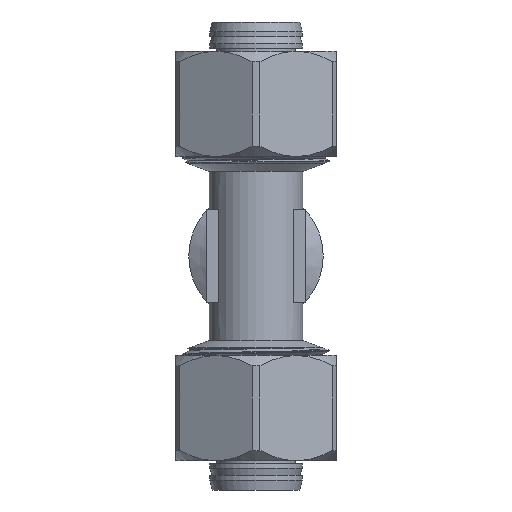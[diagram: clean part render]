
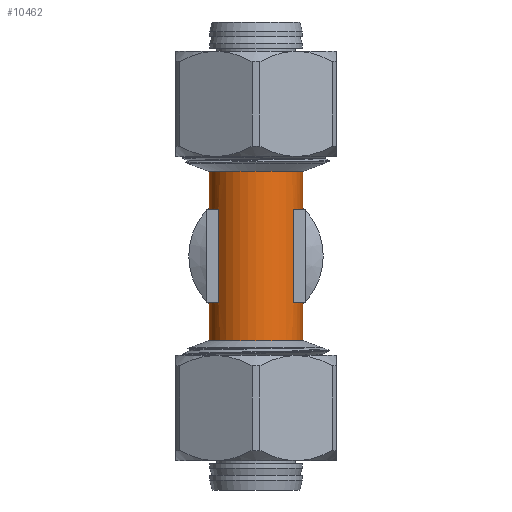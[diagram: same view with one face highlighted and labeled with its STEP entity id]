
A CAD part, front view. The second image highlights one B-rep face of the part: STEP entity #10462.
In plain terms, the highlighted cylindrical face has radius 8 mm (diameter 16 mm), a full revolution.
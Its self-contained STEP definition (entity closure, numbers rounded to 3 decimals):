
#110=ELLIPSE('',#11153,11.314,8.);
#111=ELLIPSE('',#11154,11.314,8.);
#112=ELLIPSE('',#11155,11.314,8.);
#113=ELLIPSE('',#11158,11.314,8.);
#1313=CYLINDRICAL_SURFACE('',#11231,8.);
#1498=FACE_OUTER_BOUND('',#2116,.T.);
#2116=EDGE_LOOP('',(#7521,#7522,#7523,#7524,#7525,#7526,#7527,#7528,#7529,
#7530,#7531,#7532,#7533,#7534,#7535,#7536,#7537,#7538,#7539,#7540,#7541,
#7542,#7543));
#2791=LINE('',#14118,#3449);
#2794=LINE('',#14126,#3452);
#2801=LINE('',#14145,#3459);
#2804=LINE('',#14151,#3462);
#2811=LINE('',#14168,#3469);
#2819=LINE('',#14187,#3477);
#2834=LINE('',#14334,#3492);
#2835=LINE('',#14335,#3493);
#3449=VECTOR('',#11967,10.);
#3452=VECTOR('',#11974,10.);
#3459=VECTOR('',#11993,10.);
#3462=VECTOR('',#11998,10.);
#3469=VECTOR('',#12015,10.);
#3477=VECTOR('',#12035,10.);
#3492=VECTOR('',#12212,8.);
#3493=VECTOR('',#12213,8.);
#4011=CIRCLE('',#11129,8.);
#4014=CIRCLE('',#11135,8.);
#4015=CIRCLE('',#11137,8.);
#4016=CIRCLE('',#11141,8.);
#4017=CIRCLE('',#11143,8.);
#4019=CIRCLE('',#11149,8.);
#4049=CIRCLE('',#11205,8.);
#4065=CIRCLE('',#11229,8.);
#4066=CIRCLE('',#11230,8.);
#4383=VERTEX_POINT('',#14108);
#4384=VERTEX_POINT('',#14109);
#4386=VERTEX_POINT('',#14116);
#4387=VERTEX_POINT('',#14117);
#4389=VERTEX_POINT('',#14124);
#4390=VERTEX_POINT('',#14125);
#4392=VERTEX_POINT('',#14132);
#4394=VERTEX_POINT('',#14138);
#4396=VERTEX_POINT('',#14144);
#4398=VERTEX_POINT('',#14150);
#4400=VERTEX_POINT('',#14156);
#4402=VERTEX_POINT('',#14162);
#4407=VERTEX_POINT('',#14181);
#4408=VERTEX_POINT('',#14182);
#4409=VERTEX_POINT('',#14190);
#4410=VERTEX_POINT('',#14193);
#4443=VERTEX_POINT('',#14285);
#4458=VERTEX_POINT('',#14329);
#4459=VERTEX_POINT('',#14330);
#5533=EDGE_CURVE('',#4383,#4384,#4011,.T.);
#5537=EDGE_CURVE('',#4386,#4387,#2791,.T.);
#5541=EDGE_CURVE('',#4389,#4390,#2794,.T.);
#5545=EDGE_CURVE('',#4392,#4386,#4014,.T.);
#5548=EDGE_CURVE('',#4390,#4394,#4015,.T.);
#5551=EDGE_CURVE('',#4396,#4392,#2801,.T.);
#5554=EDGE_CURVE('',#4394,#4398,#2804,.T.);
#5557=EDGE_CURVE('',#4400,#4396,#4016,.T.);
#5560=EDGE_CURVE('',#4398,#4402,#4017,.T.);
#5563=EDGE_CURVE('',#4384,#4400,#2811,.T.);
#5570=EDGE_CURVE('',#4407,#4408,#4019,.T.);
#5573=EDGE_CURVE('',#4402,#4407,#2819,.T.);
#5574=EDGE_CURVE('',#4409,#4389,#110,.T.);
#5575=EDGE_CURVE('',#4387,#4409,#111,.T.);
#5576=EDGE_CURVE('',#4410,#4383,#112,.T.);
#5580=EDGE_CURVE('',#4408,#4410,#113,.T.);
#5620=EDGE_CURVE('',#4443,#4443,#4049,.T.);
#5641=EDGE_CURVE('',#4458,#4459,#4065,.T.);
#5642=EDGE_CURVE('',#4459,#4458,#4066,.T.);
#5643=EDGE_CURVE('',#4443,#4410,#2834,.T.);
#5644=EDGE_CURVE('',#4409,#4459,#2835,.T.);
#7521=ORIENTED_EDGE('',*,*,#5620,.F.);
#7522=ORIENTED_EDGE('',*,*,#5643,.T.);
#7523=ORIENTED_EDGE('',*,*,#5576,.T.);
#7524=ORIENTED_EDGE('',*,*,#5533,.T.);
#7525=ORIENTED_EDGE('',*,*,#5563,.T.);
#7526=ORIENTED_EDGE('',*,*,#5557,.T.);
#7527=ORIENTED_EDGE('',*,*,#5551,.T.);
#7528=ORIENTED_EDGE('',*,*,#5545,.T.);
#7529=ORIENTED_EDGE('',*,*,#5537,.T.);
#7530=ORIENTED_EDGE('',*,*,#5575,.T.);
#7531=ORIENTED_EDGE('',*,*,#5644,.T.);
#7532=ORIENTED_EDGE('',*,*,#5642,.T.);
#7533=ORIENTED_EDGE('',*,*,#5641,.T.);
#7534=ORIENTED_EDGE('',*,*,#5644,.F.);
#7535=ORIENTED_EDGE('',*,*,#5574,.T.);
#7536=ORIENTED_EDGE('',*,*,#5541,.T.);
#7537=ORIENTED_EDGE('',*,*,#5548,.T.);
#7538=ORIENTED_EDGE('',*,*,#5554,.T.);
#7539=ORIENTED_EDGE('',*,*,#5560,.T.);
#7540=ORIENTED_EDGE('',*,*,#5573,.T.);
#7541=ORIENTED_EDGE('',*,*,#5570,.T.);
#7542=ORIENTED_EDGE('',*,*,#5580,.T.);
#7543=ORIENTED_EDGE('',*,*,#5643,.F.);
#10462=ADVANCED_FACE('',(#1498),#1313,.T.);
#11129=AXIS2_PLACEMENT_3D('',#14110,#11960,#11961);
#11135=AXIS2_PLACEMENT_3D('',#14133,#11981,#11982);
#11137=AXIS2_PLACEMENT_3D('',#14139,#11987,#11988);
#11141=AXIS2_PLACEMENT_3D('',#14157,#12003,#12004);
#11143=AXIS2_PLACEMENT_3D('',#14163,#12009,#12010);
#11149=AXIS2_PLACEMENT_3D('',#14183,#12029,#12030);
#11153=AXIS2_PLACEMENT_3D('',#14191,#12040,#12041);
#11154=AXIS2_PLACEMENT_3D('',#14192,#12042,#12043);
#11155=AXIS2_PLACEMENT_3D('',#14194,#12044,#12045);
#11158=AXIS2_PLACEMENT_3D('',#14200,#12051,#12052);
#11205=AXIS2_PLACEMENT_3D('',#14286,#12153,#12154);
#11229=AXIS2_PLACEMENT_3D('',#14331,#12206,#12207);
#11230=AXIS2_PLACEMENT_3D('',#14332,#12208,#12209);
#11231=AXIS2_PLACEMENT_3D('',#14333,#12210,#12211);
#11960=DIRECTION('center_axis',(0.,0.,-1.));
#11961=DIRECTION('ref_axis',(0.,-1.,0.));
#11967=DIRECTION('',(0.,0.,-1.));
#11974=DIRECTION('',(0.,0.,1.));
#11981=DIRECTION('center_axis',(0.,0.,1.));
#11982=DIRECTION('ref_axis',(0.,-1.,0.));
#11987=DIRECTION('center_axis',(0.,0.,1.));
#11988=DIRECTION('ref_axis',(0.,-1.,0.));
#11993=DIRECTION('',(0.,0.,1.));
#11998=DIRECTION('',(0.,0.,-1.));
#12003=DIRECTION('center_axis',(0.,0.,-1.));
#12004=DIRECTION('ref_axis',(0.,-1.,0.));
#12009=DIRECTION('center_axis',(0.,0.,-1.));
#12010=DIRECTION('ref_axis',(0.,-1.,0.));
#12015=DIRECTION('',(0.,0.,-1.));
#12029=DIRECTION('center_axis',(0.,0.,-1.));
#12030=DIRECTION('ref_axis',(0.,-1.,0.));
#12035=DIRECTION('',(0.,0.,1.));
#12040=DIRECTION('center_axis',(0.,-0.707,0.707));
#12041=DIRECTION('ref_axis',(0.,0.707,0.707));
#12042=DIRECTION('center_axis',(0.,-0.707,0.707));
#12043=DIRECTION('ref_axis',(0.,0.707,0.707));
#12044=DIRECTION('center_axis',(0.,-0.707,-0.707));
#12045=DIRECTION('ref_axis',(0.,-0.707,0.707));
#12051=DIRECTION('center_axis',(0.,-0.707,-0.707));
#12052=DIRECTION('ref_axis',(0.,-0.707,0.707));
#12153=DIRECTION('center_axis',(0.,0.,-1.));
#12154=DIRECTION('ref_axis',(1.,0.,0.));
#12206=DIRECTION('center_axis',(0.,0.,-1.));
#12207=DIRECTION('ref_axis',(1.,0.,0.));
#12208=DIRECTION('center_axis',(0.,0.,-1.));
#12209=DIRECTION('ref_axis',(1.,0.,0.));
#12210=DIRECTION('center_axis',(0.,0.,-1.));
#12211=DIRECTION('ref_axis',(0.,-1.,0.));
#12212=DIRECTION('',(0.,0.,1.));
#12213=DIRECTION('',(0.,0.,1.));
#14108=CARTESIAN_POINT('',(6.421,4.772,-4.772));
#14109=CARTESIAN_POINT('',(6.447,4.736,-4.772));
#14110=CARTESIAN_POINT('Origin',(0.,0.,-4.772));
#14116=CARTESIAN_POINT('',(6.447,4.736,7.978));
#14117=CARTESIAN_POINT('',(6.447,4.736,4.736));
#14118=CARTESIAN_POINT('',(6.447,4.736,7.25));
#14124=CARTESIAN_POINT('',(-6.447,4.736,4.736));
#14125=CARTESIAN_POINT('',(-6.447,4.736,7.978));
#14126=CARTESIAN_POINT('',(-6.447,4.736,7.25));
#14132=CARTESIAN_POINT('',(6.427,-4.764,7.978));
#14133=CARTESIAN_POINT('Origin',(0.,0.,7.978));
#14138=CARTESIAN_POINT('',(-6.427,-4.764,7.978));
#14139=CARTESIAN_POINT('Origin',(0.,0.,7.978));
#14144=CARTESIAN_POINT('',(6.427,-4.764,-8.022));
#14145=CARTESIAN_POINT('',(6.427,-4.764,7.25));
#14150=CARTESIAN_POINT('',(-6.427,-4.764,-8.022));
#14151=CARTESIAN_POINT('',(-6.427,-4.764,7.25));
#14156=CARTESIAN_POINT('',(6.447,4.736,-8.022));
#14157=CARTESIAN_POINT('Origin',(0.,0.,-8.022));
#14162=CARTESIAN_POINT('',(-6.447,4.736,-8.022));
#14163=CARTESIAN_POINT('Origin',(0.,0.,-8.022));
#14168=CARTESIAN_POINT('',(6.447,4.736,7.25));
#14181=CARTESIAN_POINT('',(-6.447,4.736,-4.772));
#14182=CARTESIAN_POINT('',(-6.421,4.772,-4.772));
#14183=CARTESIAN_POINT('Origin',(0.,0.,-4.772));
#14187=CARTESIAN_POINT('',(-6.447,4.736,7.25));
#14190=CARTESIAN_POINT('',(0.,8.,8.));
#14191=CARTESIAN_POINT('Origin',(0.,0.,0.));
#14192=CARTESIAN_POINT('Origin',(0.,0.,0.));
#14193=CARTESIAN_POINT('',(0.,8.,-8.));
#14194=CARTESIAN_POINT('Origin',(0.,0.,0.));
#14200=CARTESIAN_POINT('Origin',(0.,0.,0.));
#14285=CARTESIAN_POINT('',(0.,8.,-14.5));
#14286=CARTESIAN_POINT('Origin',(0.,0.,-14.5));
#14329=CARTESIAN_POINT('',(0.,-8.,14.5));
#14330=CARTESIAN_POINT('',(0.,8.,14.5));
#14331=CARTESIAN_POINT('Origin',(0.,0.,14.5));
#14332=CARTESIAN_POINT('Origin',(0.,0.,14.5));
#14333=CARTESIAN_POINT('Origin',(0.,0.,7.25));
#14334=CARTESIAN_POINT('',(0.,8.,7.25));
#14335=CARTESIAN_POINT('',(0.,8.,7.25));
